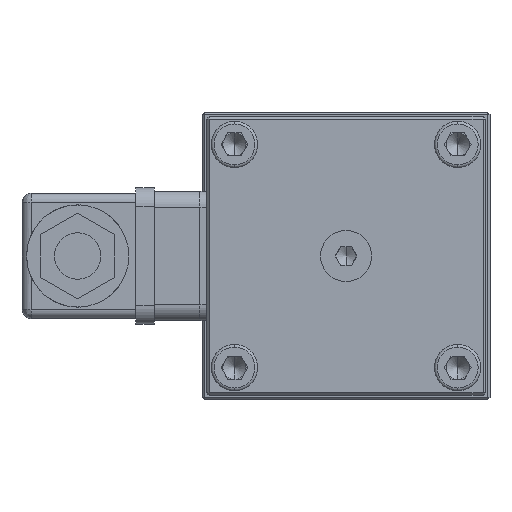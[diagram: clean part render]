
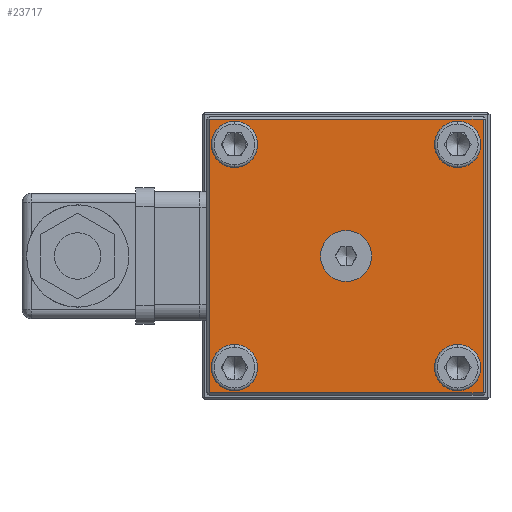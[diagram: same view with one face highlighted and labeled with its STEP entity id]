
A CAD part, left-side view. The second image highlights one B-rep face of the part: STEP entity #23717.
In plain terms, the highlighted planar face has unit normal (-1, 0, 0).
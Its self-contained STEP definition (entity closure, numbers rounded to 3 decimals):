
#679 = AXIS2_PLACEMENT_3D ( 'NONE', #26700, #7715, #29852 ) ;
#813 = VERTEX_POINT ( 'NONE', #5930 ) ;
#2157 = CARTESIAN_POINT ( 'NONE',  ( -81.2, 24.04, 24.04 ) ) ;
#2365 = CARTESIAN_POINT ( 'NONE',  ( -81.2, -24.04, 24.04 ) ) ;
#2387 = CIRCLE ( 'NONE', #33446, 5. ) ;
#3146 = CIRCLE ( 'NONE', #679, 5. ) ;
#3268 = VERTEX_POINT ( 'NONE', #5919 ) ;
#3828 = CARTESIAN_POINT ( 'NONE',  ( -81.2, 0., 0. ) ) ;
#3890 = CIRCLE ( 'NONE', #36137, 5. ) ;
#4323 = FACE_BOUND ( 'NONE', #32286, .T. ) ;
#4597 = LINE ( 'NONE', #22554, #13028 ) ;
#4632 = ORIENTED_EDGE ( 'NONE', *, *, #12549, .T. ) ;
#5370 = DIRECTION ( 'NONE',  ( 0., 0., 1. ) ) ;
#5374 = EDGE_LOOP ( 'NONE', ( #23773, #38374 ) ) ;
#5416 = CARTESIAN_POINT ( 'NONE',  ( -81.2, 24.04, -24.04 ) ) ;
#5551 = CARTESIAN_POINT ( 'NONE',  ( -81.2, 24.04, 19.04 ) ) ;
#5586 = DIRECTION ( 'NONE',  ( 0., 0., 1. ) ) ;
#5730 = ORIENTED_EDGE ( 'NONE', *, *, #32254, .F. ) ;
#5760 = VERTEX_POINT ( 'NONE', #36169 ) ;
#5761 = ORIENTED_EDGE ( 'NONE', *, *, #14044, .F. ) ;
#5818 = ORIENTED_EDGE ( 'NONE', *, *, #24944, .T. ) ;
#5919 = CARTESIAN_POINT ( 'NONE',  ( -81.2, -24.04, -19.04 ) ) ;
#5930 = CARTESIAN_POINT ( 'NONE',  ( -81.2, -29.5, 29.5 ) ) ;
#6579 = CARTESIAN_POINT ( 'NONE',  ( -81.2, 29.5, -30. ) ) ;
#6865 = VERTEX_POINT ( 'NONE', #9166 ) ;
#7036 = DIRECTION ( 'NONE',  ( 0., 0., 1. ) ) ;
#7165 = DIRECTION ( 'NONE',  ( -1., 0., 0. ) ) ;
#7313 = ORIENTED_EDGE ( 'NONE', *, *, #40310, .F. ) ;
#7560 = ORIENTED_EDGE ( 'NONE', *, *, #29689, .F. ) ;
#7715 = DIRECTION ( 'NONE',  ( -1., 0., 0. ) ) ;
#7722 = VERTEX_POINT ( 'NONE', #30546 ) ;
#8365 = LINE ( 'NONE', #38339, #40855 ) ;
#8392 = CARTESIAN_POINT ( 'NONE',  ( -81.2, -24.04, -29.04 ) ) ;
#8566 = DIRECTION ( 'NONE',  ( 0., 0., 1. ) ) ;
#8632 = VERTEX_POINT ( 'NONE', #8392 ) ;
#9075 = AXIS2_PLACEMENT_3D ( 'NONE', #2365, #24548, #5586 ) ;
#9166 = CARTESIAN_POINT ( 'NONE',  ( -81.2, 24.04, -19.04 ) ) ;
#10312 = VERTEX_POINT ( 'NONE', #16130 ) ;
#10594 = VERTEX_POINT ( 'NONE', #27387 ) ;
#11472 = CIRCLE ( 'NONE', #9075, 5. ) ;
#11528 = CIRCLE ( 'NONE', #28605, 5. ) ;
#11676 = ORIENTED_EDGE ( 'NONE', *, *, #35254, .F. ) ;
#12269 = DIRECTION ( 'NONE',  ( -1., 0., 0. ) ) ;
#12549 = EDGE_CURVE ( 'NONE', #32378, #7722, #34947, .T. ) ;
#12749 = FACE_BOUND ( 'NONE', #5374, .T. ) ;
#12879 = CIRCLE ( 'NONE', #14417, 5. ) ;
#12892 = AXIS2_PLACEMENT_3D ( 'NONE', #3828, #26024, #7036 ) ;
#13002 = CARTESIAN_POINT ( 'NONE',  ( -81.2, -24.04, 19.04 ) ) ;
#13028 = VECTOR ( 'NONE', #26041, 1000. ) ;
#13726 = ORIENTED_EDGE ( 'NONE', *, *, #32685, .F. ) ;
#13766 = FACE_BOUND ( 'NONE', #23438, .T. ) ;
#14044 = EDGE_CURVE ( 'NONE', #5760, #15143, #12879, .T. ) ;
#14116 = DIRECTION ( 'NONE',  ( -1., 0., 0. ) ) ;
#14417 = AXIS2_PLACEMENT_3D ( 'NONE', #2157, #24324, #5370 ) ;
#14719 = PLANE ( 'NONE',  #31628 ) ;
#14810 = ORIENTED_EDGE ( 'NONE', *, *, #34938, .T. ) ;
#15004 = CARTESIAN_POINT ( 'NONE',  ( -81.2, 0., -5.5 ) ) ;
#15134 = ORIENTED_EDGE ( 'NONE', *, *, #21167, .T. ) ;
#15143 = VERTEX_POINT ( 'NONE', #5551 ) ;
#15267 = EDGE_CURVE ( 'NONE', #22116, #10312, #24010, .T. ) ;
#15538 = ORIENTED_EDGE ( 'NONE', *, *, #18428, .F. ) ;
#15566 = CARTESIAN_POINT ( 'NONE',  ( -81.2, -24.04, 24.04 ) ) ;
#16130 = CARTESIAN_POINT ( 'NONE',  ( -81.2, 0., 5.5 ) ) ;
#16889 = VECTOR ( 'NONE', #31857, 1000. ) ;
#17217 = VECTOR ( 'NONE', #28713, 1000. ) ;
#17666 = DIRECTION ( 'NONE',  ( -1., 0., 0. ) ) ;
#18034 = CARTESIAN_POINT ( 'NONE',  ( -81.2, 30., -30. ) ) ;
#18428 = EDGE_CURVE ( 'NONE', #34904, #6865, #2387, .T. ) ;
#18757 = DIRECTION ( 'NONE',  ( 0., 0., 1. ) ) ;
#20015 = EDGE_CURVE ( 'NONE', #3268, #8632, #3146, .T. ) ;
#21165 = FACE_BOUND ( 'NONE', #40041, .T. ) ;
#21167 = EDGE_CURVE ( 'NONE', #7722, #33609, #8365, .T. ) ;
#21218 = DIRECTION ( 'NONE',  ( 0., 0., 1. ) ) ;
#21584 = CIRCLE ( 'NONE', #40583, 5.5 ) ;
#22116 = VERTEX_POINT ( 'NONE', #15004 ) ;
#22146 = FACE_OUTER_BOUND ( 'NONE', #28273, .T. ) ;
#22221 = CARTESIAN_POINT ( 'NONE',  ( -81.2, -29.5, 30. ) ) ;
#22554 = CARTESIAN_POINT ( 'NONE',  ( -81.2, 30., 29.5 ) ) ;
#23228 = AXIS2_PLACEMENT_3D ( 'NONE', #31205, #12269, #34360 ) ;
#23357 = AXIS2_PLACEMENT_3D ( 'NONE', #36511, #17666, #39629 ) ;
#23438 = EDGE_LOOP ( 'NONE', ( #5761, #13726 ) ) ;
#23717 = ADVANCED_FACE ( 'NONE', ( #21165, #13766, #12749, #22146, #4323, #36883 ), #14719, .T. ) ;
#23773 = ORIENTED_EDGE ( 'NONE', *, *, #36616, .F. ) ;
#24010 = CIRCLE ( 'NONE', #12892, 5.5 ) ;
#24289 = CIRCLE ( 'NONE', #23228, 5. ) ;
#24324 = DIRECTION ( 'NONE',  ( -1., 0., 0. ) ) ;
#24548 = DIRECTION ( 'NONE',  ( -1., 0., 0. ) ) ;
#24944 = EDGE_CURVE ( 'NONE', #33609, #813, #34641, .T. ) ;
#26024 = DIRECTION ( 'NONE',  ( -1., 0., 0. ) ) ;
#26041 = DIRECTION ( 'NONE',  ( 0., 1., 0. ) ) ;
#26154 = CARTESIAN_POINT ( 'NONE',  ( -81.2, 0., 0. ) ) ;
#26700 = CARTESIAN_POINT ( 'NONE',  ( -81.2, -24.04, -24.04 ) ) ;
#27387 = CARTESIAN_POINT ( 'NONE',  ( -81.2, -24.04, 29.04 ) ) ;
#27548 = DIRECTION ( 'NONE',  ( -1., 0., 0. ) ) ;
#27589 = VERTEX_POINT ( 'NONE', #13002 ) ;
#27755 = CARTESIAN_POINT ( 'NONE',  ( -81.2, -29.5, -29.5 ) ) ;
#28273 = EDGE_LOOP ( 'NONE', ( #15134, #5818, #14810, #4632 ) ) ;
#28605 = AXIS2_PLACEMENT_3D ( 'NONE', #5416, #27548, #8566 ) ;
#28713 = DIRECTION ( 'NONE',  ( 0., 0., -1. ) ) ;
#28925 = EDGE_LOOP ( 'NONE', ( #7560, #7313 ) ) ;
#29292 = DIRECTION ( 'NONE',  ( 0., 0., 1. ) ) ;
#29689 = EDGE_CURVE ( 'NONE', #10594, #27589, #11472, .T. ) ;
#29852 = DIRECTION ( 'NONE',  ( 0., 0., 1. ) ) ;
#30546 = CARTESIAN_POINT ( 'NONE',  ( -81.2, 29.5, -29.5 ) ) ;
#31205 = CARTESIAN_POINT ( 'NONE',  ( -81.2, -24.04, -24.04 ) ) ;
#31628 = AXIS2_PLACEMENT_3D ( 'NONE', #18034, #39985, #21218 ) ;
#31857 = DIRECTION ( 'NONE',  ( 0., 0., 1. ) ) ;
#31910 = CARTESIAN_POINT ( 'NONE',  ( -81.2, 24.04, -29.04 ) ) ;
#32202 = DIRECTION ( 'NONE',  ( 0., -1., 0. ) ) ;
#32254 = EDGE_CURVE ( 'NONE', #6865, #34904, #11528, .T. ) ;
#32286 = EDGE_LOOP ( 'NONE', ( #5730, #15538 ) ) ;
#32378 = VERTEX_POINT ( 'NONE', #34507 ) ;
#32685 = EDGE_CURVE ( 'NONE', #15143, #5760, #39455, .T. ) ;
#32980 = ORIENTED_EDGE ( 'NONE', *, *, #20015, .F. ) ;
#33012 = CARTESIAN_POINT ( 'NONE',  ( -81.2, 24.04, -24.04 ) ) ;
#33446 = AXIS2_PLACEMENT_3D ( 'NONE', #33012, #14116, #36122 ) ;
#33609 = VERTEX_POINT ( 'NONE', #27755 ) ;
#34360 = DIRECTION ( 'NONE',  ( 0., 0., 1. ) ) ;
#34507 = CARTESIAN_POINT ( 'NONE',  ( -81.2, 29.5, 29.5 ) ) ;
#34641 = LINE ( 'NONE', #22221, #16889 ) ;
#34904 = VERTEX_POINT ( 'NONE', #31910 ) ;
#34938 = EDGE_CURVE ( 'NONE', #813, #32378, #4597, .T. ) ;
#34947 = LINE ( 'NONE', #6579, #17217 ) ;
#35254 = EDGE_CURVE ( 'NONE', #8632, #3268, #24289, .T. ) ;
#36122 = DIRECTION ( 'NONE',  ( 0., 0., 1. ) ) ;
#36137 = AXIS2_PLACEMENT_3D ( 'NONE', #15566, #37597, #18757 ) ;
#36169 = CARTESIAN_POINT ( 'NONE',  ( -81.2, 24.04, 29.04 ) ) ;
#36511 = CARTESIAN_POINT ( 'NONE',  ( -81.2, 24.04, 24.04 ) ) ;
#36616 = EDGE_CURVE ( 'NONE', #10312, #22116, #21584, .T. ) ;
#36883 = FACE_BOUND ( 'NONE', #28925, .T. ) ;
#37597 = DIRECTION ( 'NONE',  ( -1., 0., 0. ) ) ;
#38339 = CARTESIAN_POINT ( 'NONE',  ( -81.2, -30., -29.5 ) ) ;
#38374 = ORIENTED_EDGE ( 'NONE', *, *, #15267, .F. ) ;
#39455 = CIRCLE ( 'NONE', #23357, 5. ) ;
#39629 = DIRECTION ( 'NONE',  ( 0., 0., 1. ) ) ;
#39985 = DIRECTION ( 'NONE',  ( -1., 0., 0. ) ) ;
#40041 = EDGE_LOOP ( 'NONE', ( #32980, #11676 ) ) ;
#40310 = EDGE_CURVE ( 'NONE', #27589, #10594, #3890, .T. ) ;
#40583 = AXIS2_PLACEMENT_3D ( 'NONE', #26154, #7165, #29292 ) ;
#40855 = VECTOR ( 'NONE', #32202, 1000. ) ;
